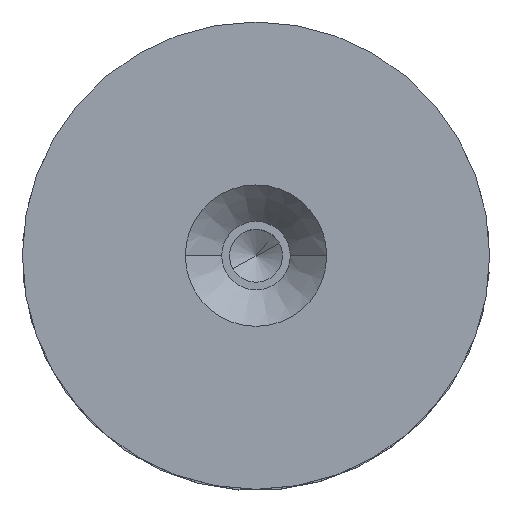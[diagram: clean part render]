
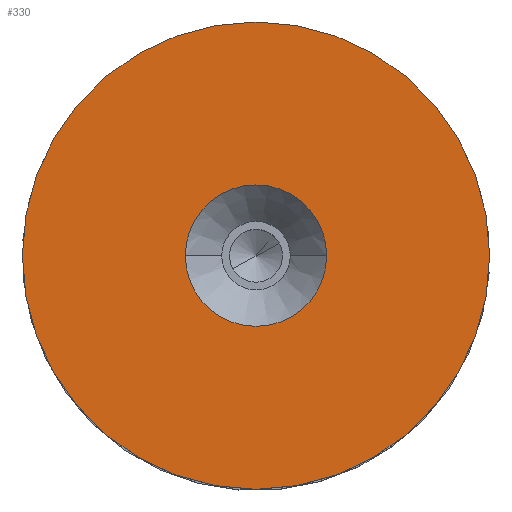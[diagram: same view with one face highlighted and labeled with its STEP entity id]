
A CAD part, top view. The second image highlights one B-rep face of the part: STEP entity #330.
In plain terms, the highlighted planar face has unit normal (0, 0, 1).
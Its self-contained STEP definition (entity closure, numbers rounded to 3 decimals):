
#20 = CIRCLE ( 'NONE', #188, 37.5 ) ;
#42 = VERTEX_POINT ( 'NONE', #602 ) ;
#51 = ORIENTED_EDGE ( 'NONE', *, *, #836, .T. ) ;
#85 = ORIENTED_EDGE ( 'NONE', *, *, #348, .T. ) ;
#158 = VERTEX_POINT ( 'NONE', #730 ) ;
#174 = DIRECTION ( 'NONE',  ( 0., 0., 1. ) ) ;
#184 = PLANE ( 'NONE',  #489 ) ;
#187 = CARTESIAN_POINT ( 'NONE',  ( 0., 0., 10. ) ) ;
#188 = AXIS2_PLACEMENT_3D ( 'NONE', #246, #190, #580 ) ;
#190 = DIRECTION ( 'NONE',  ( 0., 0., 1. ) ) ;
#238 = EDGE_CURVE ( 'NONE', #42, #158, #20, .T. ) ;
#240 = DIRECTION ( 'NONE',  ( 1., 0., 0. ) ) ;
#246 = CARTESIAN_POINT ( 'NONE',  ( 0., 0., 10. ) ) ;
#288 = VERTEX_POINT ( 'NONE', #557 ) ;
#294 = DIRECTION ( 'NONE',  ( 1., 0., 0. ) ) ;
#330 = ADVANCED_FACE ( 'NONE', ( #666, #502 ), #184, .T. ) ;
#348 = EDGE_CURVE ( 'NONE', #539, #288, #643, .T. ) ;
#356 = DIRECTION ( 'NONE',  ( 1., 0., 0. ) ) ;
#371 = DIRECTION ( 'NONE',  ( 1., 0., 0. ) ) ;
#374 = CARTESIAN_POINT ( 'NONE',  ( 0., 0., 10. ) ) ;
#481 = CARTESIAN_POINT ( 'NONE',  ( 11.35, 0., 10. ) ) ;
#489 = AXIS2_PLACEMENT_3D ( 'NONE', #374, #719, #240 ) ;
#502 = FACE_OUTER_BOUND ( 'NONE', #757, .T. ) ;
#505 = AXIS2_PLACEMENT_3D ( 'NONE', #584, #174, #294 ) ;
#512 = CIRCLE ( 'NONE', #518, 11.35 ) ;
#514 = EDGE_LOOP ( 'NONE', ( #85, #647 ) ) ;
#518 = AXIS2_PLACEMENT_3D ( 'NONE', #187, #729, #356 ) ;
#537 = AXIS2_PLACEMENT_3D ( 'NONE', #704, #555, #371 ) ;
#539 = VERTEX_POINT ( 'NONE', #481 ) ;
#550 = ORIENTED_EDGE ( 'NONE', *, *, #238, .T. ) ;
#555 = DIRECTION ( 'NONE',  ( 0., 0., -1. ) ) ;
#557 = CARTESIAN_POINT ( 'NONE',  ( -11.35, 0., 10. ) ) ;
#580 = DIRECTION ( 'NONE',  ( 1., 0., 0. ) ) ;
#584 = CARTESIAN_POINT ( 'NONE',  ( 0., 0., 10. ) ) ;
#587 = CIRCLE ( 'NONE', #505, 37.5 ) ;
#602 = CARTESIAN_POINT ( 'NONE',  ( 37.5, 0., 10. ) ) ;
#643 = CIRCLE ( 'NONE', #537, 11.35 ) ;
#647 = ORIENTED_EDGE ( 'NONE', *, *, #716, .T. ) ;
#666 = FACE_BOUND ( 'NONE', #514, .T. ) ;
#704 = CARTESIAN_POINT ( 'NONE',  ( 0., 0., 10. ) ) ;
#716 = EDGE_CURVE ( 'NONE', #288, #539, #512, .T. ) ;
#719 = DIRECTION ( 'NONE',  ( 0., 0., 1. ) ) ;
#729 = DIRECTION ( 'NONE',  ( 0., 0., -1. ) ) ;
#730 = CARTESIAN_POINT ( 'NONE',  ( -37.5, 0., 10. ) ) ;
#757 = EDGE_LOOP ( 'NONE', ( #51, #550 ) ) ;
#836 = EDGE_CURVE ( 'NONE', #158, #42, #587, .T. ) ;
